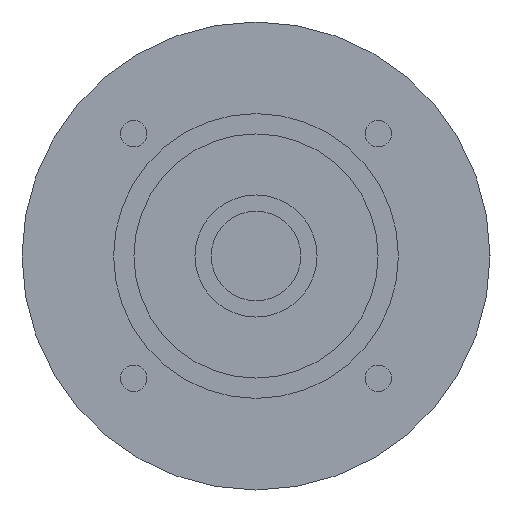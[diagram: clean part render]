
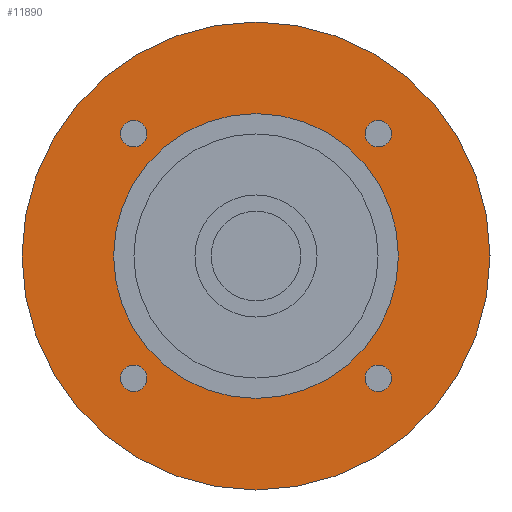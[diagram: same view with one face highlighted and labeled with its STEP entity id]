
A CAD part, left-side view. The second image highlights one B-rep face of the part: STEP entity #11890.
In plain terms, the highlighted planar face has unit normal (-1, 0, 0) as drawn and (0, 0, -1) by its records, which use the part's own axes.
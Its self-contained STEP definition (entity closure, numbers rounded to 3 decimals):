
#10720=CARTESIAN_POINT('',(57.5,0.,-66.401));
#10730=VERTEX_POINT('',#10720);
#10760=CARTESIAN_POINT('',(0.,0.,
-66.401));
#10770=DIRECTION('',(0.,0.,-1.));
#10780=DIRECTION('',(0.,-1.,0.));
#10790=AXIS2_PLACEMENT_3D('',#10760,#10770,#10780);
#10800=CIRCLE('',#10790,57.5);
#10810=CARTESIAN_POINT('',(0.,-57.5,-66.401));
#10820=VERTEX_POINT('',#10810);
#10830=EDGE_CURVE('',#10730,#10820,#10800,.T.);
#10850=CARTESIAN_POINT('',(-57.5,0.,-66.401));
#10860=VERTEX_POINT('',#10850);
#10870=EDGE_CURVE('',#10820,#10860,#10800,.T.);
#10990=CARTESIAN_POINT('',(0.,0.,
-66.401));
#11000=DIRECTION('',(0.,0.,-1.));
#11010=DIRECTION('',(1.,0.,0.));
#11020=AXIS2_PLACEMENT_3D('',#10990,#11000,#11010);
#11030=PLANE('',#11020);
#11040=CARTESIAN_POINT('',(30.052,30.052,-66.401));
#11050=DIRECTION('',(0.,0.,-1.));
#11060=DIRECTION('',(0.,1.,0.));
#11070=AXIS2_PLACEMENT_3D('',#11040,#11050,#11060);
#11080=CIRCLE('',#11070,3.25);
#11090=CARTESIAN_POINT('',(30.052,33.302,-66.401));
#11100=VERTEX_POINT('',#11090);
#11110=CARTESIAN_POINT('',(30.052,26.802,-66.401));
#11120=VERTEX_POINT('',#11110);
#11130=EDGE_CURVE('',#11100,#11120,#11080,.T.);
#11140=ORIENTED_EDGE('',*,*,#11130,.F.);
#11150=EDGE_CURVE('',#11120,#11100,#11080,.T.);
#11160=ORIENTED_EDGE('',*,*,#11150,.F.);
#11170=EDGE_LOOP('',(#11160,#11140));
#11180=FACE_BOUND('',#11170,.T.);
#11190=CARTESIAN_POINT('',(-30.052,30.052,-66.401));
#11200=DIRECTION('',(0.,0.,-1.));
#11210=DIRECTION('',(-1.,0.,0.));
#11220=AXIS2_PLACEMENT_3D('',#11190,#11200,#11210);
#11230=CIRCLE('',#11220,3.25);
#11240=CARTESIAN_POINT('',(-33.302,30.052,-66.401));
#11250=VERTEX_POINT('',#11240);
#11260=CARTESIAN_POINT('',(-26.802,30.052,-66.401));
#11270=VERTEX_POINT('',#11260);
#11280=EDGE_CURVE('',#11250,#11270,#11230,.T.);
#11290=ORIENTED_EDGE('',*,*,#11280,.F.);
#11300=EDGE_CURVE('',#11270,#11250,#11230,.T.);
#11310=ORIENTED_EDGE('',*,*,#11300,.F.);
#11320=EDGE_LOOP('',(#11310,#11290));
#11330=FACE_BOUND('',#11320,.T.);
#11340=CARTESIAN_POINT('',(-30.052,-30.052,-66.401))
;
#11350=DIRECTION('',(0.,0.,-1.));
#11360=DIRECTION('',(0.,-1.,0.));
#11370=AXIS2_PLACEMENT_3D('',#11340,#11350,#11360);
#11380=CIRCLE('',#11370,3.25);
#11390=CARTESIAN_POINT('',(-30.052,-33.302,-66.401))
;
#11400=VERTEX_POINT('',#11390);
#11410=CARTESIAN_POINT('',(-30.052,-26.802,-66.401))
;
#11420=VERTEX_POINT('',#11410);
#11430=EDGE_CURVE('',#11400,#11420,#11380,.T.);
#11440=ORIENTED_EDGE('',*,*,#11430,.F.);
#11450=EDGE_CURVE('',#11420,#11400,#11380,.T.);
#11460=ORIENTED_EDGE('',*,*,#11450,.F.);
#11470=EDGE_LOOP('',(#11460,#11440));
#11480=FACE_BOUND('',#11470,.T.);
#11490=CARTESIAN_POINT('',(0.,0.,
-66.401));
#11500=DIRECTION('',(0.,0.,1.));
#11510=DIRECTION('',(0.,1.,0.));
#11520=AXIS2_PLACEMENT_3D('',#11490,#11500,#11510);
#11530=CIRCLE('',#11520,35.);
#11540=CARTESIAN_POINT('',(-35.,0.,-66.401));
#11550=VERTEX_POINT('',#11540);
#11560=CARTESIAN_POINT('',(35.,0.,-66.401));
#11570=VERTEX_POINT('',#11560);
#11580=EDGE_CURVE('',#11550,#11570,#11530,.T.);
#11590=ORIENTED_EDGE('',*,*,#11580,.T.);
#11600=CARTESIAN_POINT('',(0.,35.,-66.401));
#11610=VERTEX_POINT('',#11600);
#11620=EDGE_CURVE('',#11610,#11550,#11530,.T.);
#11630=ORIENTED_EDGE('',*,*,#11620,.T.);
#11640=EDGE_CURVE('',#11570,#11610,#11530,.T.);
#11650=ORIENTED_EDGE('',*,*,#11640,.T.);
#11660=EDGE_LOOP('',(#11650,#11630,#11590));
#11670=FACE_BOUND('',#11660,.T.);
#11680=CARTESIAN_POINT('',(30.052,-30.052,-66.401));
#11690=DIRECTION('',(0.,0.,-1.));
#11700=DIRECTION('',(1.,0.,0.));
#11710=AXIS2_PLACEMENT_3D('',#11680,#11690,#11700);
#11720=CIRCLE('',#11710,3.25);
#11730=CARTESIAN_POINT('',(33.302,-30.052,-66.401));
#11740=VERTEX_POINT('',#11730);
#11750=CARTESIAN_POINT('',(26.802,-30.052,-66.401));
#11760=VERTEX_POINT('',#11750);
#11770=EDGE_CURVE('',#11740,#11760,#11720,.T.);
#11780=ORIENTED_EDGE('',*,*,#11770,.F.);
#11790=EDGE_CURVE('',#11760,#11740,#11720,.T.);
#11800=ORIENTED_EDGE('',*,*,#11790,.F.);
#11810=EDGE_LOOP('',(#11800,#11780));
#11820=FACE_BOUND('',#11810,.T.);
#11830=EDGE_CURVE('',#10860,#10730,#10800,.T.);
#11840=ORIENTED_EDGE('',*,*,#11830,.T.);
#11850=ORIENTED_EDGE('',*,*,#10870,.T.);
#11860=ORIENTED_EDGE('',*,*,#10830,.T.);
#11870=EDGE_LOOP('',(#11860,#11850,#11840));
#11880=FACE_OUTER_BOUND('',#11870,.T.);
#11890=ADVANCED_FACE('',(#11180,#11330,#11480,#11670,#11820,#11880),
#11030,.T.);
